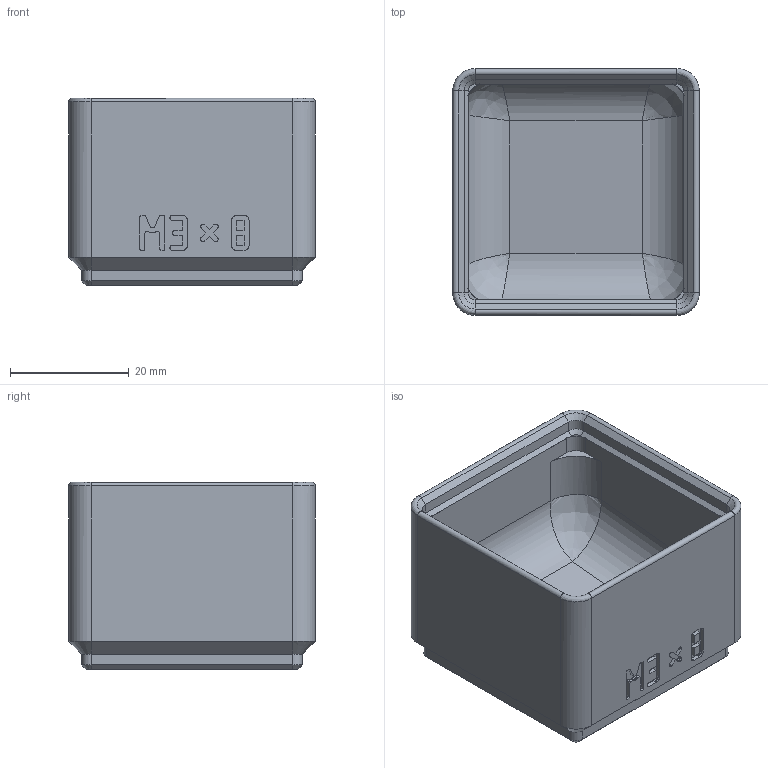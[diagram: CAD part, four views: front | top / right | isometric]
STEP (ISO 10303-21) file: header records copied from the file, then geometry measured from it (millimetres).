
FILE_DESCRIPTION(('Open CASCADE Model'),'2;1');
FILE_NAME('Open CASCADE Shape Model','2026-11-03T17:57:39',('Author'),( 'Open CASCADE'),'Open CASCADE STEP processor 8.0','build123d', 'Unknown');
FILE_SCHEMA(('AUTOMOTIVE_DESIGN { 1 0 10303 214 1 1 1 1 }'));
Length unit declared in the file: millimetre
Products named in the file (1): COMPOUND
Bounding box: 41.5 x 41.5 x 31.55 mm (x, y, z)
Volume: 18953.1 mm3; surface area: 11331.7 mm2
Topology: 1 solids, 1 shells, 515 faces, 1433 edges, 922 vertices
Faces by surface type: plane 451, cylinder 36, cone 20, bspline 8
Entity records: 36322 total; most frequent: CARTESIAN_POINT 9409, DIRECTION 4395, LINE 3249, VECTOR 3249, ORIENTED_EDGE 2858, PCURVE 2858, DEFINITIONAL_REPRESENTATION 2858, EDGE_CURVE 1429
